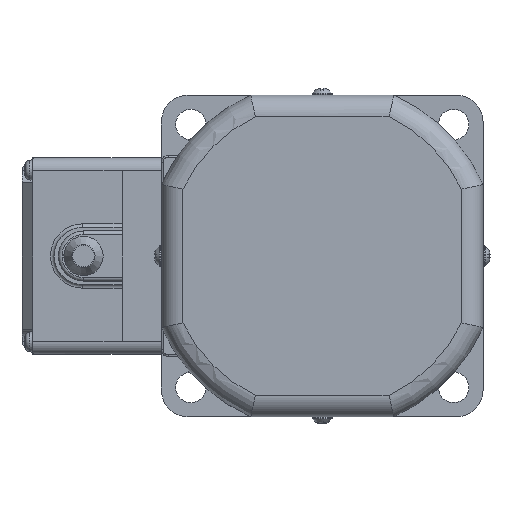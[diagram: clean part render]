
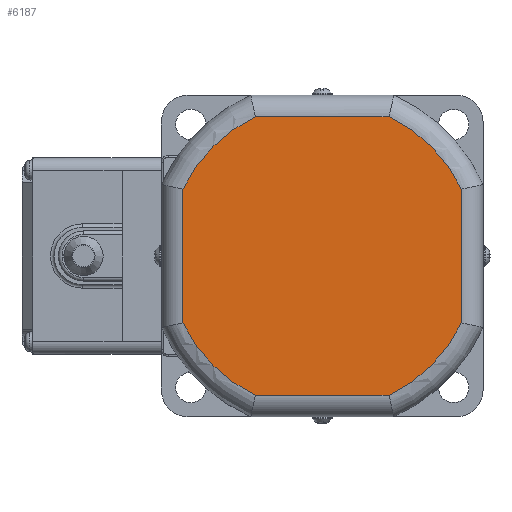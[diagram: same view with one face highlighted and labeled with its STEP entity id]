
A CAD part, left-side view. The second image highlights one B-rep face of the part: STEP entity #6187.
In plain terms, the highlighted planar face has unit normal (-1, 0, 0).
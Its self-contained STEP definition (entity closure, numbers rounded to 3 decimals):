
#732=CIRCLE('',#6641,43.25);
#733=CIRCLE('',#6642,43.25);
#734=CIRCLE('',#6643,43.25);
#735=CIRCLE('',#6644,43.25);
#1056=FACE_OUTER_BOUND('',#1418,.T.);
#1418=EDGE_LOOP('',(#4539,#4540,#4541,#4542,#4543,#4544,#4545,#4546));
#1809=LINE('',#10023,#2230);
#1810=LINE('',#10027,#2231);
#1811=LINE('',#10031,#2232);
#1812=LINE('',#10035,#2233);
#2230=VECTOR('',#7591,37.393);
#2231=VECTOR('',#7594,37.393);
#2232=VECTOR('',#7597,37.393);
#2233=VECTOR('',#7600,37.393);
#2706=VERTEX_POINT('',#10021);
#2707=VERTEX_POINT('',#10022);
#2708=VERTEX_POINT('',#10024);
#2709=VERTEX_POINT('',#10026);
#2710=VERTEX_POINT('',#10028);
#2711=VERTEX_POINT('',#10030);
#2712=VERTEX_POINT('',#10032);
#2713=VERTEX_POINT('',#10034);
#3394=EDGE_CURVE('',#2706,#2707,#1809,.T.);
#3395=EDGE_CURVE('',#2708,#2706,#732,.T.);
#3396=EDGE_CURVE('',#2709,#2708,#1810,.T.);
#3397=EDGE_CURVE('',#2710,#2709,#733,.T.);
#3398=EDGE_CURVE('',#2711,#2710,#1811,.T.);
#3399=EDGE_CURVE('',#2712,#2711,#734,.T.);
#3400=EDGE_CURVE('',#2713,#2712,#1812,.T.);
#3401=EDGE_CURVE('',#2707,#2713,#735,.T.);
#4539=ORIENTED_EDGE('',*,*,#3394,.F.);
#4540=ORIENTED_EDGE('',*,*,#3395,.F.);
#4541=ORIENTED_EDGE('',*,*,#3396,.F.);
#4542=ORIENTED_EDGE('',*,*,#3397,.F.);
#4543=ORIENTED_EDGE('',*,*,#3398,.F.);
#4544=ORIENTED_EDGE('',*,*,#3399,.F.);
#4545=ORIENTED_EDGE('',*,*,#3400,.F.);
#4546=ORIENTED_EDGE('',*,*,#3401,.F.);
#5965=PLANE('',#6640);
#6187=ADVANCED_FACE('',(#1056),#5965,.F.);
#6640=AXIS2_PLACEMENT_3D('',#10020,#7589,#7590);
#6641=AXIS2_PLACEMENT_3D('',#10025,#7592,#7593);
#6642=AXIS2_PLACEMENT_3D('',#10029,#7595,#7596);
#6643=AXIS2_PLACEMENT_3D('',#10033,#7598,#7599);
#6644=AXIS2_PLACEMENT_3D('',#10036,#7601,#7602);
#7589=DIRECTION('center_axis',(1.,0.,0.));
#7590=DIRECTION('ref_axis',(0.,1.,0.));
#7591=DIRECTION('',(0.,-1.,0.));
#7592=DIRECTION('center_axis',(1.,0.,0.));
#7593=DIRECTION('ref_axis',(0.,0.707,0.707));
#7594=DIRECTION('',(0.,0.,1.));
#7595=DIRECTION('center_axis',(1.,0.,0.));
#7596=DIRECTION('ref_axis',(0.,0.707,-0.707));
#7597=DIRECTION('',(0.,1.,0.));
#7598=DIRECTION('center_axis',(1.,0.,0.));
#7599=DIRECTION('ref_axis',(0.,-0.707,-0.707));
#7600=DIRECTION('',(0.,0.,-1.));
#7601=DIRECTION('center_axis',(1.,0.,0.));
#7602=DIRECTION('ref_axis',(0.,-0.707,0.707));
#10020=CARTESIAN_POINT('Origin',(-17.8,0.,
0.));
#10021=CARTESIAN_POINT('',(-17.8,18.697,39.));
#10022=CARTESIAN_POINT('',(-17.8,-18.697,39.));
#10023=CARTESIAN_POINT('',(-17.8,18.697,39.));
#10024=CARTESIAN_POINT('',(-17.8,39.,18.697));
#10025=CARTESIAN_POINT('Origin',(-17.8,0.,
0.));
#10026=CARTESIAN_POINT('',(-17.8,39.,-18.697));
#10027=CARTESIAN_POINT('',(-17.8,39.,-18.697));
#10028=CARTESIAN_POINT('',(-17.8,18.697,-39.));
#10029=CARTESIAN_POINT('Origin',(-17.8,0.,
0.));
#10030=CARTESIAN_POINT('',(-17.8,-18.697,-39.));
#10031=CARTESIAN_POINT('',(-17.8,-18.697,-39.));
#10032=CARTESIAN_POINT('',(-17.8,-39.,-18.697));
#10033=CARTESIAN_POINT('Origin',(-17.8,0.,
0.));
#10034=CARTESIAN_POINT('',(-17.8,-39.,18.697));
#10035=CARTESIAN_POINT('',(-17.8,-39.,18.697));
#10036=CARTESIAN_POINT('Origin',(-17.8,0.,
0.));
